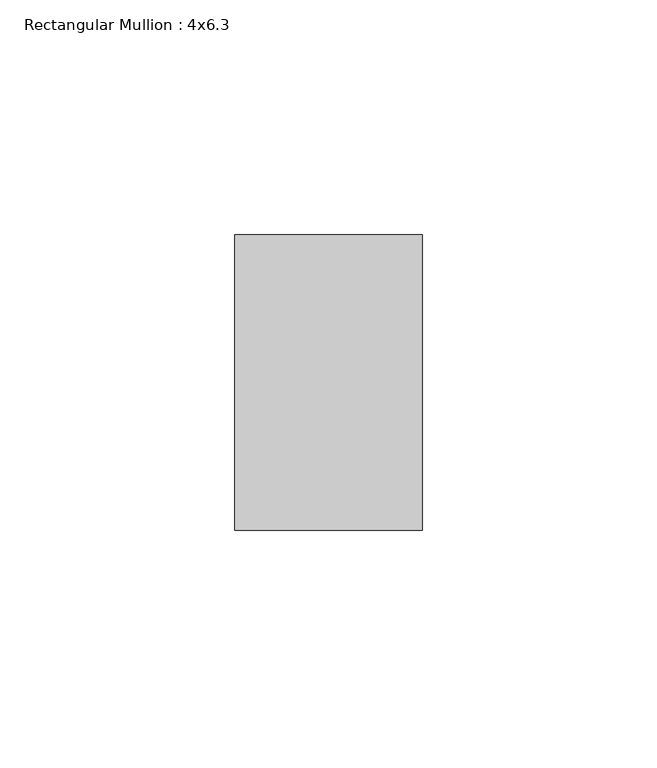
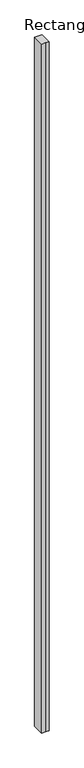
"""IFC4 building model written with IfcOpenShell, lengths in millimetres: member geometry, Rectangular Mullion : 4x6.3."""

import ifcopenshell
import ifcopenshell.guid

model = None  # the IFC model being written
_history = None  # IfcOwnerHistory: only IFC2X3 demands one
_inside = {}  # id of a spatial element -> (the spatial element, [elements in it])
_under = {}  # id of a project, library or spatial element -> (it, [spatial elements below it])
_declared = {}  # id of a project -> (the project, [libraries it declares])
_typed = {}  # id of a type object -> (the type object, [elements of that type])
_made_of = {}  # id of a material, layer set ... -> (it, [elements and type objects made of it])


def new_model(schema):
    """Start an empty IFC model of exactly this schema.

    Asked for "IFC4X3", IfcOpenShell would pick the latest addendum, in which some entities
    have other attributes; the version numbers below select the first issue.
    IFC2X3 requires an IfcOwnerHistory on every rooted entity: one is made here for all.
    """
    global model, _history
    if schema == "IFC4X3":
        model = ifcopenshell.file(schema_version=(4, 3, 0, 0))
    else:
        model = ifcopenshell.file(schema=schema)
    _inside.clear()
    _under.clear()
    _declared.clear()
    _typed.clear()
    _made_of.clear()
    _history = None
    if model.schema == "IFC2X3":
        org = make("IfcOrganization", Name="unknown")
        user = make(
            "IfcPersonAndOrganization",
            ThePerson=make("IfcPerson", FamilyName="unknown"),
            TheOrganization=org,
        )
        app = make(
            "IfcApplication",
            ApplicationDeveloper=org,
            Version="unknown",
            ApplicationFullName="unknown",
            ApplicationIdentifier="unknown",
        )
        _history = make(
            "IfcOwnerHistory",
            OwningUser=user,
            OwningApplication=app,
            ChangeAction="ADDED",
            CreationDate=0,
        )
    return model


def make(cls, **values):
    """One entity of the class cls with the attributes given. An attribute that is None is left unset."""
    return model.create_entity(
        cls, **{name: value for name, value in values.items() if value is not None}
    )


def rooted(cls, **values):
    """An entity with a GlobalId (a new one), such as an element, a storey or a relation."""
    return make(cls, GlobalId=ifcopenshell.guid.new(), OwnerHistory=_history, **values)


def si_unit(unit_type, name, prefix=None):
    """IfcSIUnit, for example si_unit("LENGTHUNIT", "METRE", prefix="MILLI")."""
    return make("IfcSIUnit", UnitType=unit_type, Prefix=prefix, Name=name)


def assignment(units):
    """IfcUnitAssignment: the units of a project."""
    return None if units is None else make("IfcUnitAssignment", Units=units)


def point(xyz):
    """IfcCartesianPoint."""
    return None if xyz is None else make("IfcCartesianPoint", Coordinates=xyz)


def direction(xyz):
    """IfcDirection."""
    return None if xyz is None else make("IfcDirection", DirectionRatios=xyz)


def frame(location, z_axis=None, x_axis=None):
    """IfcAxis2Placement3D, a coordinate frame: its origin and axes. An axis left out is left unset."""
    return make(
        "IfcAxis2Placement3D",
        Location=point(location),
        Axis=direction(z_axis),
        RefDirection=direction(x_axis),
    )


def origin():
    """The frame at (0, 0, 0) with its axes left unset."""
    return frame((0.0, 0.0, 0.0))


def place(relative_to, where):
    """IfcLocalPlacement: puts the frame where relative to a parent placement (None: the world)."""
    return make(
        "IfcLocalPlacement", PlacementRelTo=relative_to, RelativePlacement=where
    )


def context(
    kind, dimensions, precision=None, world=None, true_north=None, identifier=None
):
    """IfcGeometricRepresentationContext, for example the 3D "Model" context."""
    return make(
        "IfcGeometricRepresentationContext",
        ContextIdentifier=identifier,
        ContextType=kind,
        CoordinateSpaceDimension=dimensions,
        Precision=precision,
        WorldCoordinateSystem=world,
        TrueNorth=true_north,
    )


def project(units=None, contexts=None):
    """IfcProject with its units and contexts."""
    return rooted(
        "IfcProject",
        Name="project",
        RepresentationContexts=contexts,
        UnitsInContext=assignment(units),
    )


def spatial(cls, under=None, at=None, **own):
    """A site, building, storey or space (cls), placed at a placement, below another one or the project."""
    s = rooted(cls, ObjectPlacement=at, **own)
    if under is not None:
        _under.setdefault(under.id(), (under, []))[1].append(s)
    return s


def polyline(points):
    """IfcPolyline through the points."""
    return make("IfcPolyline", Points=[point(p) for p in points])


def outline(outer, holes=None, kind="AREA"):
    """IfcArbitraryClosedProfileDef: a profile drawn as a closed curve; with holes, ...WithVoids."""
    if holes is None:
        return make("IfcArbitraryClosedProfileDef", ProfileType=kind, OuterCurve=outer)
    return make(
        "IfcArbitraryProfileDefWithVoids",
        ProfileType=kind,
        OuterCurve=outer,
        InnerCurves=holes,
    )


def extrude(swept, where, along, depth):
    """IfcExtrudedAreaSolid: the profile swept, set in the frame where, extruded along a direction by depth."""
    return make(
        "IfcExtrudedAreaSolid",
        SweptArea=swept,
        Position=where,
        ExtrudedDirection=direction(along),
        Depth=depth,
    )


def shape(context_of_items, identifier, shape_type, items):
    """IfcShapeRepresentation: the items that make up one representation, for example the "Body"."""
    return make(
        "IfcShapeRepresentation",
        ContextOfItems=context_of_items,
        RepresentationIdentifier=identifier,
        RepresentationType=shape_type,
        Items=items,
    )


def source(mapping_origin, context_of_items, identifier, shape_type, items):
    """IfcRepresentationMap: a shape defined once, which mapped items show again and again."""
    return make(
        "IfcRepresentationMap",
        MappingOrigin=mapping_origin,
        MappedRepresentation=shape(context_of_items, identifier, shape_type, items),
    )


def transform(
    local_origin,
    x_axis=None,
    y_axis=None,
    z_axis=None,
    scale=None,
    scale2=None,
    scale3=None,
    uniform=True,
):
    """IfcCartesianTransformationOperator3D, or its non-uniform kind. x_axis, y_axis, z_axis: its Axis1, 2, 3."""
    if uniform:
        return make(
            "IfcCartesianTransformationOperator3D",
            Axis1=direction(x_axis),
            Axis2=direction(y_axis),
            LocalOrigin=point(local_origin),
            Scale=scale,
            Axis3=direction(z_axis),
        )
    return make(
        "IfcCartesianTransformationOperator3DnonUniform",
        Axis1=direction(x_axis),
        Axis2=direction(y_axis),
        LocalOrigin=point(local_origin),
        Scale=scale,
        Axis3=direction(z_axis),
        Scale2=scale2,
        Scale3=scale3,
    )


def mapped(mapping_source, mapping_target):
    """IfcMappedItem: shows the shape of a source again, moved by a transform."""
    return make(
        "IfcMappedItem", MappingSource=mapping_source, MappingTarget=mapping_target
    )


def made_of(thing, what):
    """Note that an element or type object is made of a material, layer set ...; save() writes the relation."""
    if what is not None:
        _made_of.setdefault(what.id(), (what, []))[1].append(thing)
    return thing


def element(
    cls,
    number,
    at=None,
    inside=None,
    cuts=None,
    type_object=None,
    material=None,
    context=None,
    identifier="Body",
    shape_type=None,
    held_by="IfcProductDefinitionShape",
    body=None,
    shapes=None,
    **own,
):
    """One element of the class cls, such as IfcWall. Its Tag is "e" and its number.

    at: its placement. inside: the storey or other place that contains it. cuts: it is an
    opening in that element (IfcRelVoidsElement). A single representation is given by context,
    identifier, shape_type and body (its items); several are given by shapes. held_by: the class
    of the entity that holds the representations. save() writes the other relations.
    """
    e = rooted(cls, Tag="e%d" % number, ObjectPlacement=at, **own)
    if body is not None:
        shapes = [shape(context, identifier, shape_type, body)]
    if shapes is not None:
        e.Representation = make(held_by, Representations=shapes)
    if inside is not None:
        _inside.setdefault(inside.id(), (inside, []))[1].append(e)
    if cuts is not None:
        rooted(
            "IfcRelVoidsElement", RelatingBuildingElement=cuts, RelatedOpeningElement=e
        )
    if type_object is not None:
        _typed.setdefault(type_object.id(), (type_object, []))[1].append(e)
    return made_of(e, material)


def aggregate(whole, parts):
    """IfcRelAggregates: a whole, such as a stair, and the parts it consists of."""
    return rooted("IfcRelAggregates", RelatingObject=whole, RelatedObjects=parts)


def save(model, path):
    """Write the relations noted so far, then the file.

    IfcRelAggregates (storeys below a building ...), IfcRelContainedInSpatialStructure (elements
    in a storey), IfcRelDefinesByType, IfcRelAssociatesMaterial and IfcRelDeclares: one each for
    every whole, place, type object, material and project.
    """
    for whole, parts in _under.values():
        aggregate(whole, parts)
    for where, things in _inside.values():
        rooted(
            "IfcRelContainedInSpatialStructure",
            RelatedElements=things,
            RelatingStructure=where,
        )
    for kind, things in _typed.values():
        rooted("IfcRelDefinesByType", RelatedObjects=things, RelatingType=kind)
    for what, things in _made_of.values():
        rooted("IfcRelAssociatesMaterial", RelatedObjects=things, RelatingMaterial=what)
    for by, libraries in _declared.values():
        rooted("IfcRelDeclares", RelatingContext=by, RelatedDefinitions=libraries)
    model.write(path)


def rectangular_mullion_4x6_3_d009f0e6(model_context):
    return source(origin(), model_context, "Body", "SweptSolid", [
        extrude(outline(polyline([(-20.0, 20.0), (-20.0, 83.0), (20.0, 83.0), (20.0, 20.0), (0.0, 20.0), (-20.0, 20.0)])), frame((0.0, 0.0, -3854.4947132), z_axis=(0.0, 0.0, 1.0), x_axis=(1.0, 0.0, 0.0)), (0.0, 0.0, 1.0), 3854.4947132),
    ])


if __name__ == "__main__":
    model = new_model("IFC4")
    model_context = context("Model", 3, world=origin())
    ifc_project = project(units=[si_unit("LENGTHUNIT", "METRE", prefix="MILLI")], contexts=[model_context])
    site = spatial("IfcSite", under=ifc_project)
    building = spatial("IfcBuilding", under=site)
    placement = place(None, origin())
    rectangular_mullion_4x6_3_shape = rectangular_mullion_4x6_3_d009f0e6(model_context)
    element("IfcMember", 1, ObjectType="Rectangular Mullion : 4x6.3", at=placement, inside=building, context=model_context, shape_type="MappedRepresentation", body=[
        mapped(rectangular_mullion_4x6_3_shape, transform((0.0, 0.0, 0.0), x_axis=(1.0, 0.0, 0.0), y_axis=(0.0, 1.0, 0.0), z_axis=(0.0, 0.0, 1.0))),
    ])
    save(model, "model.ifc")
